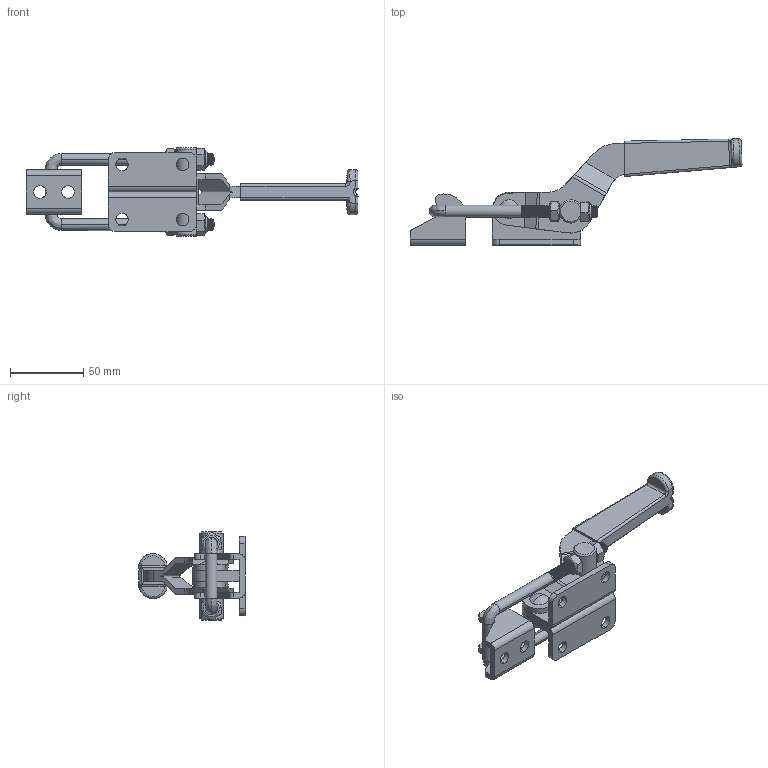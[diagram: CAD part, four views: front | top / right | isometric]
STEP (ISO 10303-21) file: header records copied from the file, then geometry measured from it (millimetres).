
FILE_DESCRIPTION (( 'STEP AP214' ), '1' );
FILE_NAME ('DST-40341.STEP', '2022-01-05T05:35:28', ( '' ), ( '' ), 'SwSTEP 2.0', 'SolidWorks 2015', '' );
FILE_SCHEMA (( 'AUTOMOTIVE_DESIGN' ));
Length unit declared in the file: millimetre
Products named in the file (10): DST-40341; DST-40341-04 PERMANENT SEAT; DST-40341-07; DST-M8 LOCK NUT; DST-M8 NUT; DST-40341-03 HANDLE; DST-40341-05 ROTOR; DST-40341-06; DST-40341-01 BASE; DST-40341-02 HOOK
Assembly tree (11 placements, depth 2):
  DST-40341
    DST-40341-01 BASE
    DST-40341-03 HANDLE
    DST-40341-06
    DST-40341-05 ROTOR
    DST-40341-02 HOOK
    DST-40341-07
    DST-M8 NUT  x2
    DST-M8 LOCK NUT  x2
    DST-40341-04 PERMANENT SEAT
Bounding box: 226.23 x 72.36 x 60.2 mm (x, y, z)
Volume: 84017.3 mm3; surface area: 49783.8 mm2
Topology: 10 solids, 236 shells, 1321 faces, 3681 edges, 2595 vertices
Faces by surface type: cylinder 643, plane 594, bspline 45, cone 39
Entity records: 101379 total; most frequent: CARTESIAN_POINT 70174, DIRECTION 6164, ORIENTED_EDGE 5948, EDGE_CURVE 3518, VERTEX_POINT 2493, AXIS2_PLACEMENT_3D 2195, LINE 1774, VECTOR 1774
